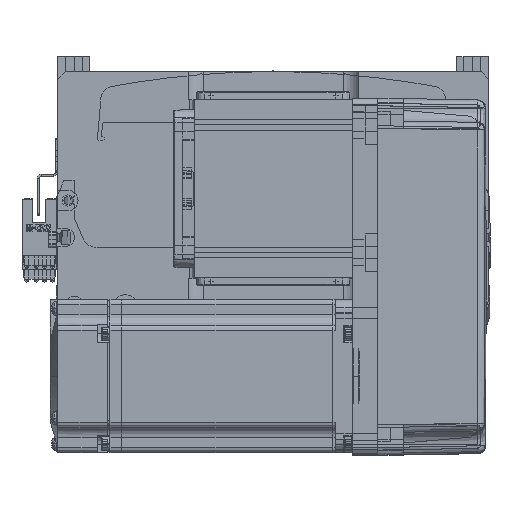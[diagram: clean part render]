
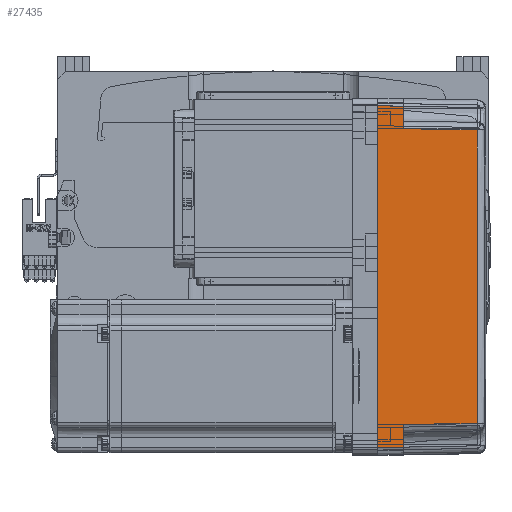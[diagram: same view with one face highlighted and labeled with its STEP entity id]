
A CAD part, top view. The second image highlights one B-rep face of the part: STEP entity #27435.
In plain terms, the highlighted planar face has unit normal (0.018, 0, 1) as drawn and (0, 1, 0.017) by its records, which use the part's own axes.
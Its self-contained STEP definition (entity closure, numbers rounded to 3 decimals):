
#1223 = CARTESIAN_POINT ( 'NONE',  ( -58., 35.825, 10. ) ) ;
#1759 = LINE ( 'NONE', #37726, #41893 ) ;
#2444 = DIRECTION ( 'NONE',  ( 0.017, -0.017, 1. ) ) ;
#3127 = CARTESIAN_POINT ( 'NONE',  ( 66.826, 35.825, 10. ) ) ;
#4634 = VERTEX_POINT ( 'NONE', #65249 ) ;
#5157 = PLANE ( 'NONE',  #18832 ) ;
#5205 = CARTESIAN_POINT ( 'NONE',  ( -66.826, 35.825, 10. ) ) ;
#6740 = ORIENTED_EDGE ( 'NONE', *, *, #27771, .T. ) ;
#6856 = CARTESIAN_POINT ( 'NONE',  ( -58., 35.825, 10. ) ) ;
#6873 = CARTESIAN_POINT ( 'NONE',  ( 19.165, 35.316, 39.181 ) ) ;
#7535 = DIRECTION ( 'NONE',  ( 0.017, 0.017, -1. ) ) ;
#9839 = DIRECTION ( 'NONE',  ( 0., -0.017, 1. ) ) ;
#10173 = LINE ( 'NONE', #68211, #11929 ) ;
#10327 = CARTESIAN_POINT ( 'NONE',  ( 70., 35.825, 10. ) ) ;
#11818 = CARTESIAN_POINT ( 'NONE',  ( -57.495, 35.32, 38.985 ) ) ;
#11929 = VECTOR ( 'NONE', #7535, 1000. ) ;
#16853 = DIRECTION ( 'NONE',  ( 1., 0., 0. ) ) ;
#18832 = AXIS2_PLACEMENT_3D ( 'NONE', #49921, #44277, #9839 ) ;
#19288 = LINE ( 'NONE', #22207, #39353 ) ;
#21207 = DIRECTION ( 'NONE',  ( 1., 0., 0. ) ) ;
#22207 = CARTESIAN_POINT ( 'NONE',  ( 0., 36., 0. ) ) ;
#22558 = EDGE_CURVE ( 'NONE', #64080, #68798, #38332, .T. ) ;
#22947 = LINE ( 'NONE', #1223, #25582 ) ;
#24596 = CARTESIAN_POINT ( 'NONE',  ( -67., 36., 0. ) ) ;
#25474 = ORIENTED_EDGE ( 'NONE', *, *, #22558, .T. ) ;
#25582 = VECTOR ( 'NONE', #2444, 1000. ) ;
#27435 = ADVANCED_FACE ( 'NONE', ( #51751 ), #5157, .T. ) ;
#27771 = EDGE_CURVE ( 'NONE', #70712, #59230, #42018, .T. ) ;
#29466 = VERTEX_POINT ( 'NONE', #46928 ) ;
#32416 = CARTESIAN_POINT ( 'NONE',  ( 70., 35.825, 10. ) ) ;
#33065 = ORIENTED_EDGE ( 'NONE', *, *, #39980, .F. ) ;
#37726 = CARTESIAN_POINT ( 'NONE',  ( 67.001, 36.001, -0.052 ) ) ;
#38179 = DIRECTION ( 'NONE',  ( -0.017, -0.017, 1. ) ) ;
#38332 = LINE ( 'NONE', #32416, #67286 ) ;
#38639 = EDGE_CURVE ( 'NONE', #4634, #29466, #39435, .T. ) ;
#39353 = VECTOR ( 'NONE', #16853, 1000. ) ;
#39435 = B_SPLINE_CURVE_WITH_KNOTS ( 'NONE', 3,
 ( #11818, #62393, #6873, #50945 ),
 .UNSPECIFIED., .F., .F.,
 ( 4, 4 ),
 ( 0., 1. ),
 .UNSPECIFIED. ) ;
#39980 = EDGE_CURVE ( 'NONE', #52236, #59230, #1759, .T. ) ;
#41893 = VECTOR ( 'NONE', #38179, 1000. ) ;
#42018 = LINE ( 'NONE', #10327, #48151 ) ;
#42425 = ORIENTED_EDGE ( 'NONE', *, *, #44365, .F. ) ;
#44277 = DIRECTION ( 'NONE',  ( 0., 1., 0.017 ) ) ;
#44365 = EDGE_CURVE ( 'NONE', #57755, #52236, #19288, .T. ) ;
#46697 = DIRECTION ( 'NONE',  ( 1., 0., 0. ) ) ;
#46842 = EDGE_LOOP ( 'NONE', ( #64635, #25474, #51086, #55122, #57086, #6740, #33065, #42425 ) ) ;
#46928 = CARTESIAN_POINT ( 'NONE',  ( 57.495, 35.32, 38.985 ) ) ;
#48151 = VECTOR ( 'NONE', #46697, 1000. ) ;
#48953 = LINE ( 'NONE', #24596, #59486 ) ;
#49921 = CARTESIAN_POINT ( 'NONE',  ( 70., 36., 0. ) ) ;
#50945 = CARTESIAN_POINT ( 'NONE',  ( 57.495, 35.32, 38.985 ) ) ;
#51086 = ORIENTED_EDGE ( 'NONE', *, *, #53466, .T. ) ;
#51751 = FACE_OUTER_BOUND ( 'NONE', #46842, .T. ) ;
#51960 = EDGE_CURVE ( 'NONE', #29466, #70712, #10173, .T. ) ;
#52236 = VERTEX_POINT ( 'NONE', #66055 ) ;
#53466 = EDGE_CURVE ( 'NONE', #68798, #4634, #22947, .T. ) ;
#55122 = ORIENTED_EDGE ( 'NONE', *, *, #38639, .T. ) ;
#55332 = CARTESIAN_POINT ( 'NONE',  ( 58., 35.825, 10. ) ) ;
#57086 = ORIENTED_EDGE ( 'NONE', *, *, #51960, .T. ) ;
#57755 = VERTEX_POINT ( 'NONE', #65644 ) ;
#59230 = VERTEX_POINT ( 'NONE', #3127 ) ;
#59486 = VECTOR ( 'NONE', #63955, 1000. ) ;
#62393 = CARTESIAN_POINT ( 'NONE',  ( -19.165, 35.316, 39.181 ) ) ;
#63955 = DIRECTION ( 'NONE',  ( 0.017, -0.017, 1. ) ) ;
#64080 = VERTEX_POINT ( 'NONE', #5205 ) ;
#64635 = ORIENTED_EDGE ( 'NONE', *, *, #72495, .T. ) ;
#65249 = CARTESIAN_POINT ( 'NONE',  ( -57.495, 35.32, 38.985 ) ) ;
#65644 = CARTESIAN_POINT ( 'NONE',  ( -67., 36., 0. ) ) ;
#66055 = CARTESIAN_POINT ( 'NONE',  ( 67., 36., 0. ) ) ;
#67286 = VECTOR ( 'NONE', #21207, 1000. ) ;
#68211 = CARTESIAN_POINT ( 'NONE',  ( 57.495, 35.32, 38.985 ) ) ;
#68798 = VERTEX_POINT ( 'NONE', #6856 ) ;
#70712 = VERTEX_POINT ( 'NONE', #55332 ) ;
#72495 = EDGE_CURVE ( 'NONE', #57755, #64080, #48953, .T. ) ;
